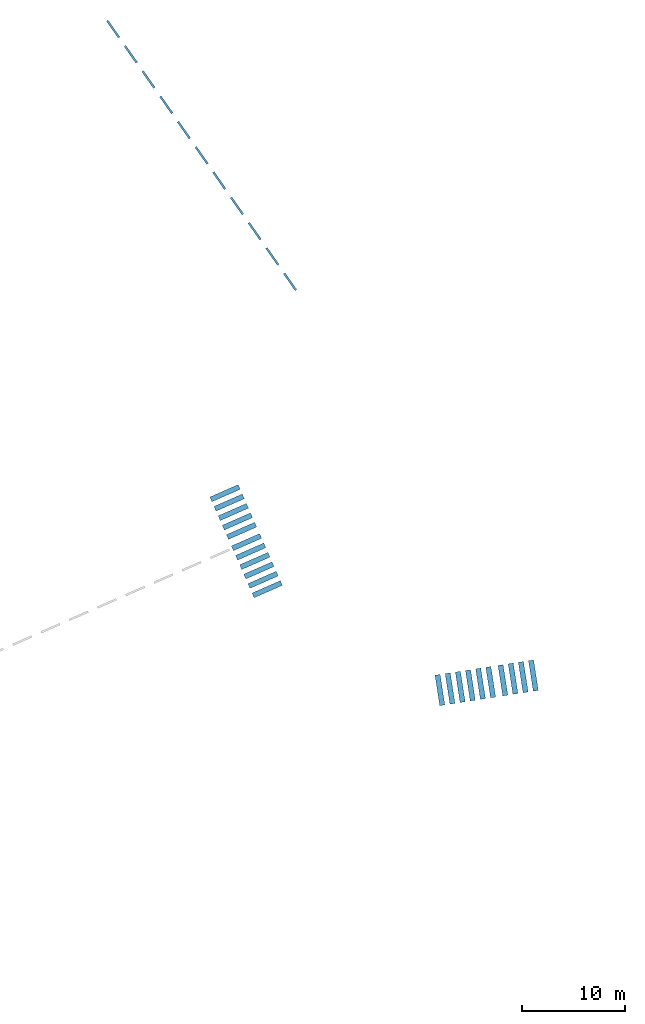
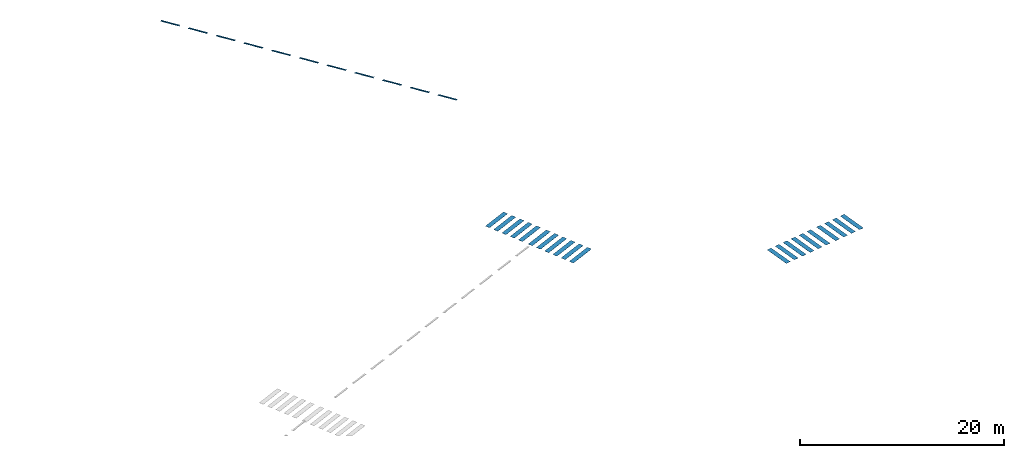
# One storey, part 83 of 112: 32 walls.
"""IFC2X3 building model written with IfcOpenShell, lengths in millimetres."""

from ifc_helpers import new_model, entity, si_unit, converted_unit, derived_unit, direction, frame, frame_2d, origin, origin_2d_with_axis, place, context, subcontext, project, spatial, rectangle, extrude, material, type_object, element, save


model = new_model("IFC2X3")

# Units and contexts
model_context = context("Model", 3, precision=0.01, world=origin(), true_north=direction((6.123031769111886e-17, 1.0)))
body_context = subcontext(model_context, "Body", "Model", "MODEL_VIEW")
ifc_project = project(units=[si_unit("LENGTHUNIT", "METRE", prefix="MILLI"), si_unit("AREAUNIT", "SQUARE_METRE"), si_unit("VOLUMEUNIT", "CUBIC_METRE"), converted_unit("PLANEANGLEUNIT", "DEGREE", entity("IfcRatioMeasure", 0.017453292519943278), si_unit("PLANEANGLEUNIT", "RADIAN"), dimensions=[0, 0, 0, 0, 0, 0, 0]), si_unit("MASSUNIT", "GRAM", prefix="KILO"), derived_unit("MASSDENSITYUNIT", [(si_unit("MASSUNIT", "GRAM", prefix="KILO"), 1), (si_unit("LENGTHUNIT", "METRE"), -3)]), derived_unit("MOMENTOFINERTIAUNIT", [(si_unit("LENGTHUNIT", "METRE"), 4)]), si_unit("TIMEUNIT", "SECOND"), si_unit("FREQUENCYUNIT", "HERTZ"), si_unit("THERMODYNAMICTEMPERATUREUNIT", "DEGREE_CELSIUS"), derived_unit("THERMALTRANSMITTANCEUNIT", [(si_unit("MASSUNIT", "GRAM", prefix="KILO"), 1), (si_unit("THERMODYNAMICTEMPERATUREUNIT", "KELVIN"), -1), (si_unit("TIMEUNIT", "SECOND"), -3)]), derived_unit("THERMALCONDUCTANCEUNIT", [(si_unit("MASSUNIT", "GRAM", prefix="KILO"), 1), (si_unit("LENGTHUNIT", "METRE"), 1), (si_unit("THERMODYNAMICTEMPERATUREUNIT", "KELVIN"), -1), (si_unit("TIMEUNIT", "SECOND"), -3)]), derived_unit("VOLUMETRICFLOWRATEUNIT", [(si_unit("LENGTHUNIT", "METRE"), 3), (si_unit("TIMEUNIT", "SECOND"), -1)]), derived_unit("MASSFLOWRATEUNIT", [(si_unit("MASSUNIT", "GRAM", prefix="KILO"), 1), (si_unit("TIMEUNIT", "SECOND"), -1)]), derived_unit("ROTATIONALFREQUENCYUNIT", [(si_unit("TIMEUNIT", "SECOND"), -1)]), si_unit("ELECTRICCURRENTUNIT", "AMPERE"), si_unit("ELECTRICVOLTAGEUNIT", "VOLT"), si_unit("POWERUNIT", "WATT"), converted_unit("FORCEUNIT", "KIP", entity("IfcRatioMeasure", 2.088543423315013e-05), si_unit("FORCEUNIT", "NEWTON"), dimensions=[1, 1, -2, 0, 0, 0, 0]), si_unit("ILLUMINANCEUNIT", "LUX"), si_unit("LUMINOUSFLUXUNIT", "LUMEN"), si_unit("LUMINOUSINTENSITYUNIT", "CANDELA"), derived_unit("USERDEFINED", [(si_unit("MASSUNIT", "GRAM", prefix="KILO"), -1), (si_unit("LENGTHUNIT", "METRE"), -2), (si_unit("TIMEUNIT", "SECOND"), 3), (si_unit("LUMINOUSFLUXUNIT", "LUMEN"), 1)]), derived_unit("USERDEFINED", [(si_unit("MASSUNIT", "GRAM", prefix="KILO"), 1), (si_unit("LENGTHUNIT", "METRE"), 3), (si_unit("TIMEUNIT", "SECOND"), -3), (si_unit("ELECTRICCURRENTUNIT", "AMPERE"), -2)]), derived_unit("USERDEFINED", [(si_unit("LENGTHUNIT", "METRE"), 2), (si_unit("TIMEUNIT", "SECOND"), -2)]), derived_unit("SOUNDPOWERUNIT", [(si_unit("MASSUNIT", "GRAM", prefix="KILO"), 1), (si_unit("LENGTHUNIT", "METRE"), 2), (si_unit("TIMEUNIT", "SECOND"), -3)]), derived_unit("SOUNDPRESSUREUNIT", [(si_unit("MASSUNIT", "GRAM", prefix="KILO"), 1), (si_unit("LENGTHUNIT", "METRE"), -1), (si_unit("TIMEUNIT", "SECOND"), -2)]), derived_unit("LINEARVELOCITYUNIT", [(si_unit("LENGTHUNIT", "METRE"), 1), (si_unit("TIMEUNIT", "SECOND"), -1)]), si_unit("PRESSUREUNIT", "PASCAL"), derived_unit("USERDEFINED", [(si_unit("LENGTHUNIT", "METRE"), -2), (si_unit("MASSUNIT", "GRAM", prefix="KILO"), 1), (si_unit("TIMEUNIT", "SECOND"), -2)]), derived_unit("LINEARFORCEUNIT", [(si_unit("MASSUNIT", "GRAM", prefix="KILO"), 1), (si_unit("LENGTHUNIT", "METRE"), 1), (si_unit("TIMEUNIT", "SECOND"), -2), (si_unit("LENGTHUNIT", "METRE"), -1)]), derived_unit("PLANARFORCEUNIT", [(si_unit("MASSUNIT", "GRAM", prefix="KILO"), 1), (si_unit("LENGTHUNIT", "METRE"), 1), (si_unit("TIMEUNIT", "SECOND"), -2), (si_unit("LENGTHUNIT", "METRE"), -2)]), derived_unit("SPECIFICHEATCAPACITYUNIT", [(si_unit("LENGTHUNIT", "METRE"), 2), (si_unit("TIMEUNIT", "SECOND"), -2), (si_unit("THERMODYNAMICTEMPERATUREUNIT", "KELVIN"), -1)]), derived_unit("VAPORPERMEABILITYUNIT", [(si_unit("TIMEUNIT", "SECOND"), 1), (si_unit("LENGTHUNIT", "METRE"), -1)]), derived_unit("DYNAMICVISCOSITYUNIT", [(si_unit("MASSUNIT", "GRAM", prefix="KILO"), 1), (si_unit("LENGTHUNIT", "METRE"), -1), (si_unit("TIMEUNIT", "SECOND"), -1)]), derived_unit("THERMALEXPANSIONCOEFFICIENTUNIT", [(si_unit("THERMODYNAMICTEMPERATUREUNIT", "KELVIN"), -1)])], contexts=[model_context])

# Site, building, storey
site_placement = place(None, frame((0.0, 0.0, 0.0), z_axis=(0.0, 0.0, 1.0), x_axis=(0.8191520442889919, 0.5735764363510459, 0.0)))
site = spatial("IfcSite", under=ifc_project, at=site_placement, Name="Default", CompositionType="ELEMENT")
building_placement = place(site_placement, origin())
building = spatial("IfcBuilding", under=site, at=building_placement, CompositionType="ELEMENT")
storey_placement = place(building_placement, frame((0.0, 0.0, -3600.0)))
storey = spatial("IfcBuildingStorey", under=building, at=storey_placement, Name="0.UG -3.60", CompositionType="ELEMENT", Elevation=-3600.0000000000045)

# Walls
ifc_material = material(Name="road_markirovka")
wall_type_1 = type_object("IfcWallType", Name="81", PredefinedType="NOTDEFINED", material=ifc_material)
wall_1_placement = place(storey_placement, frame((262009.76716339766, 404740.5110109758, 450.0), z_axis=(0.0, 0.0, 1.0), x_axis=(0.0, 1.0, 0.0)))
element("IfcWall", 1, at=wall_1_placement, inside=storey, type_object=wall_type_1, material=ifc_material, Name="81 203377:81 203377", ObjectType="81 203377:81 203377", context=body_context, shape_type="SweptSolid", body=[
    extrude(rectangle(XDim=199.99999999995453, YDim=1999.9999999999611, at=origin_2d_with_axis()), frame((1000.0, -100.0, 0.0), z_axis=(0.0, 0.0, 1.0), x_axis=(0.0, -1.0, 0.0)), (0.0, 0.0, 1.0), 9.999999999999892),
])
wall_type_2 = type_object("IfcWallType", Name="81", PredefinedType="NOTDEFINED", material=ifc_material)
wall_2_placement = place(storey_placement, frame((262009.76716339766, 407740.51101097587, 450.0), z_axis=(0.0, 0.0, 1.0), x_axis=(0.0, 1.0, 0.0)))
element("IfcWall", 2, at=wall_2_placement, inside=storey, type_object=wall_type_2, material=ifc_material, Name="81 203379:81 203379", ObjectType="81 203379:81 203379", context=body_context, shape_type="SweptSolid", body=[
    extrude(rectangle(XDim=199.99999999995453, YDim=1999.9999999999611, at=origin_2d_with_axis()), frame((1000.0, -100.0, 0.0), z_axis=(0.0, 0.0, 1.0), x_axis=(0.0, -1.0, 0.0)), (0.0, 0.0, 1.0), 9.999999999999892),
])
wall_type_3 = type_object("IfcWallType", Name="81", PredefinedType="NOTDEFINED", material=ifc_material)
wall_3_placement = place(storey_placement, frame((262009.76716339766, 410740.5110109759, 450.0), z_axis=(0.0, 0.0, 1.0), x_axis=(0.0, 1.0, 0.0)))
element("IfcWall", 3, at=wall_3_placement, inside=storey, type_object=wall_type_3, material=ifc_material, Name="81 203382:81 203382", ObjectType="81 203382:81 203382", context=body_context, shape_type="SweptSolid", body=[
    extrude(rectangle(XDim=199.99999999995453, YDim=2000.0000000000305, at=frame_2d((0.0, 3.467448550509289e-11), x_axis=(1.0, 0.0))), frame((1000.0, -100.0, 0.0), z_axis=(0.0, 0.0, 1.0), x_axis=(0.0, -1.0, 0.0)), (0.0, 0.0, 1.0), 9.999999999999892),
])
wall_type_4 = type_object("IfcWallType", Name="81", PredefinedType="NOTDEFINED", material=ifc_material)
wall_4_placement = place(storey_placement, frame((262009.76716339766, 413740.5110109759, 450.0), z_axis=(0.0, 0.0, 1.0), x_axis=(0.0, 1.0, 0.0)))
element("IfcWall", 4, at=wall_4_placement, inside=storey, type_object=wall_type_4, material=ifc_material, Name="81 203385:81 203385", ObjectType="81 203385:81 203385", context=body_context, shape_type="SweptSolid", body=[
    extrude(rectangle(XDim=199.99999999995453, YDim=2000.0000000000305, at=frame_2d((0.0, 3.467448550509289e-11), x_axis=(1.0, 0.0))), frame((1000.0, -100.0, 0.0), z_axis=(0.0, 0.0, 1.0), x_axis=(0.0, -1.0, 0.0)), (0.0, 0.0, 1.0), 9.999999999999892),
])
wall_type_5 = type_object("IfcWallType", Name="81", PredefinedType="NOTDEFINED", material=ifc_material)
wall_5_placement = place(storey_placement, frame((262009.76716339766, 419740.51101097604, 450.0), z_axis=(0.0, 0.0, 1.0), x_axis=(0.0, 1.0, 0.0)))
element("IfcWall", 5, at=wall_5_placement, inside=storey, type_object=wall_type_5, material=ifc_material, Name="81 203387:81 203387", ObjectType="81 203387:81 203387", context=body_context, shape_type="SweptSolid", body=[
    extrude(rectangle(XDim=199.99999999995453, YDim=1999.9999999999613, at=frame_2d((0.0, -6.929212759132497e-11), x_axis=(1.0, 0.0))), frame((1000.0, -100.0, 0.0), z_axis=(0.0, 0.0, 1.0), x_axis=(0.0, -1.0, 0.0)), (0.0, 0.0, 1.0), 9.999999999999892),
])
wall_type_6 = type_object("IfcWallType", Name="81", PredefinedType="NOTDEFINED", material=ifc_material)
wall_6_placement = place(storey_placement, frame((262009.76716339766, 422740.5110109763, 450.0), z_axis=(0.0, 0.0, 1.0), x_axis=(0.0, 1.0, 0.0)))
element("IfcWall", 6, at=wall_6_placement, inside=storey, type_object=wall_type_6, material=ifc_material, Name="81 203389:81 203389", ObjectType="81 203389:81 203389", context=body_context, shape_type="SweptSolid", body=[
    extrude(rectangle(XDim=199.99999999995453, YDim=1999.9999999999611, at=origin_2d_with_axis()), frame((1000.0, -100.0, 0.0), z_axis=(0.0, 0.0, 1.0), x_axis=(0.0, -1.0, 0.0)), (0.0, 0.0, 1.0), 9.999999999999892),
])
wall_type_7 = type_object("IfcWallType", Name="81", PredefinedType="NOTDEFINED", material=ifc_material)
wall_7_placement = place(storey_placement, frame((262009.76716339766, 428740.5110109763, 450.0), z_axis=(0.0, 0.0, 1.0), x_axis=(0.0, 1.0, 0.0)))
element("IfcWall", 7, at=wall_7_placement, inside=storey, type_object=wall_type_7, material=ifc_material, Name="81 203390:81 203390", ObjectType="81 203390:81 203390", context=body_context, shape_type="SweptSolid", body=[
    extrude(rectangle(XDim=199.99999999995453, YDim=2000.0000000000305, at=frame_2d((0.0, 3.467448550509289e-11), x_axis=(1.0, 0.0))), frame((1000.0, -100.0, 0.0), z_axis=(0.0, 0.0, 1.0), x_axis=(0.0, -1.0, 0.0)), (0.0, 0.0, 1.0), 9.999999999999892),
])
wall_type_8 = type_object("IfcWallType", Name="81", PredefinedType="NOTDEFINED", material=ifc_material)
wall_8_placement = place(storey_placement, frame((262009.76716339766, 416740.5110109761, 450.0), z_axis=(0.0, 0.0, 1.0), x_axis=(0.0, 1.0, 0.0)))
element("IfcWall", 8, at=wall_8_placement, inside=storey, type_object=wall_type_8, material=ifc_material, Name="81 203391:81 203391", ObjectType="81 203391:81 203391", context=body_context, shape_type="SweptSolid", body=[
    extrude(rectangle(XDim=199.99999999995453, YDim=1999.9999999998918, at=frame_2d((0.0, -3.461764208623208e-11), x_axis=(1.0, 0.0))), frame((1000.0, -100.0, 0.0), z_axis=(0.0, 0.0, 1.0), x_axis=(0.0, -1.0, 0.0)), (0.0, 0.0, 1.0), 9.999999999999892),
])
wall_type_9 = type_object("IfcWallType", Name="81", PredefinedType="NOTDEFINED", material=ifc_material)
wall_9_placement = place(storey_placement, frame((262009.76716339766, 434740.51101097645, 450.0), z_axis=(0.0, 0.0, 1.0), x_axis=(0.0, 1.0, 0.0)))
element("IfcWall", 9, at=wall_9_placement, inside=storey, type_object=wall_type_9, material=ifc_material, Name="81 203396:81 203396", ObjectType="81 203396:81 203396", context=body_context, shape_type="SweptSolid", body=[
    extrude(rectangle(XDim=199.99999999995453, YDim=1999.9999999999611, at=origin_2d_with_axis()), frame((1000.0, -100.0, 0.0), z_axis=(0.0, 0.0, 1.0), x_axis=(0.0, -1.0, 0.0)), (0.0, 0.0, 1.0), 9.999999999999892),
])
wall_type_10 = type_object("IfcWallType", Name="81", PredefinedType="NOTDEFINED", material=ifc_material)
wall_10_placement = place(storey_placement, frame((262009.76716339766, 425740.5110109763, 450.0), z_axis=(0.0, 0.0, 1.0), x_axis=(0.0, 1.0, 0.0)))
element("IfcWall", 10, at=wall_10_placement, inside=storey, type_object=wall_type_10, material=ifc_material, Name="81 203397:81 203397", ObjectType="81 203397:81 203397", context=body_context, shape_type="SweptSolid", body=[
    extrude(rectangle(XDim=199.99999999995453, YDim=1999.9999999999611, at=origin_2d_with_axis()), frame((1000.0, -100.0, 0.0), z_axis=(0.0, 0.0, 1.0), x_axis=(0.0, -1.0, 0.0)), (0.0, 0.0, 1.0), 9.999999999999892),
])
wall_type_11 = type_object("IfcWallType", Name="81", PredefinedType="NOTDEFINED", material=ifc_material)
wall_11_placement = place(storey_placement, frame((262009.76716339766, 431740.5110109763, 450.0), z_axis=(0.0, 0.0, 1.0), x_axis=(0.0, 1.0, 0.0)))
element("IfcWall", 11, at=wall_11_placement, inside=storey, type_object=wall_type_11, material=ifc_material, Name="81 203398:81 203398", ObjectType="81 203398:81 203398", context=body_context, shape_type="SweptSolid", body=[
    extrude(rectangle(XDim=199.99999999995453, YDim=2000.0000000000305, at=frame_2d((0.0, 3.467448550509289e-11), x_axis=(1.0, 0.0))), frame((1000.0, -100.0, 0.0), z_axis=(0.0, 0.0, 1.0), x_axis=(0.0, -1.0, 0.0)), (0.0, 0.0, 1.0), 9.999999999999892),
])
wall_type_12 = type_object("IfcWallType", Name="81", PredefinedType="NOTDEFINED", material=ifc_material)
wall_12_placement = place(storey_placement, frame((251281.0, 362959.6996675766, 450.0), z_axis=(0.0, 0.0, 1.0), x_axis=(0.0, 1.0, 0.0)))
element("IfcWall", 12, at=wall_12_placement, inside=storey, type_object=wall_type_12, material=ifc_material, Name="81 206968:81 206968", ObjectType="81 206968:81 206968", context=body_context, shape_type="SweptSolid", body=[
    extrude(rectangle(XDim=499.9999999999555, YDim=3000.00000000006, at=frame_2d((-2.7000623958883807e-13, -3.8767211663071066e-11), x_axis=(1.0, 0.0))), frame((1456.4441670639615, -886.0647180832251, 0.0), z_axis=(0.0, 0.0, 1.0), x_axis=(0.4411364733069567, 0.8974400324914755, 0.0)), (0.0, 0.0, 1.0), 9.999999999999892),
])
wall_type_13 = type_object("IfcWallType", Name="81", PredefinedType="NOTDEFINED", material=ifc_material)
wall_13_placement = place(storey_placement, frame((241812.49358359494, 382965.23668504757, 450.0)))
element("IfcWall", 13, at=wall_13_placement, inside=storey, type_object=wall_type_13, material=ifc_material, Name="81 207042:81 207042", ObjectType="81 207042:81 207042", context=body_context, shape_type="SweptSolid", body=[
    extrude(rectangle(XDim=499.9999999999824, YDim=3000.0000000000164, at=frame_2d((-3.737454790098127e-11, 1.0118128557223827e-11), x_axis=(1.0, 0.0))), frame((1519.9094475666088, 539.0459395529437, 0.0), z_axis=(0.0, 0.0, 1.0), x_axis=(0.19592756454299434, 0.9806183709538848, 0.0)), (0.0, 0.0, 1.0), 9.999999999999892),
])
wall_type_14 = type_object("IfcWallType", Name="81", PredefinedType="NOTDEFINED", material=ifc_material)
wall_14_placement = place(storey_placement, frame((243419.09961284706, 391006.30732686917, 450.0)))
element("IfcWall", 14, at=wall_14_placement, inside=storey, type_object=wall_type_14, material=ifc_material, Name="81 207046:81 207046", ObjectType="81 207046:81 207046", context=body_context, shape_type="SweptSolid", body=[
    extrude(rectangle(XDim=500.0000000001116, YDim=2999.9999999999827, at=origin_2d_with_axis()), frame((1519.909447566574, 539.0459395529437, 0.0), z_axis=(0.0, 0.0, 1.0), x_axis=(0.19592756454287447, 0.9806183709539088, 0.0)), (0.0, 0.0, 1.0), 9.999999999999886),
])
wall_type_15 = type_object("IfcWallType", Name="81", PredefinedType="NOTDEFINED", material=ifc_material)
wall_15_placement = place(storey_placement, frame((243615.02717739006, 391986.92569782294, 450.0)))
element("IfcWall", 15, at=wall_15_placement, inside=storey, type_object=wall_type_15, material=ifc_material, Name="81 207047:81 207047", ObjectType="81 207047:81 207047", context=body_context, shape_type="SweptSolid", body=[
    extrude(rectangle(XDim=500.0000000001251, YDim=2999.999999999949, at=frame_2d((-3.382183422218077e-12, 1.7053025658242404e-11), x_axis=(1.0, 0.0))), frame((1519.909447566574, 539.0459395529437, 0.0), z_axis=(0.0, 0.0, 1.0), x_axis=(0.19592756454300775, 0.9806183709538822, 0.0)), (0.0, 0.0, 1.0), 9.999999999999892),
])
wall_type_16 = type_object("IfcWallType", Name="81", PredefinedType="NOTDEFINED", material=ifc_material)
wall_16_placement = place(storey_placement, frame((241616.56601905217, 381984.6183140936, 450.0)))
element("IfcWall", 16, at=wall_16_placement, inside=storey, type_object=wall_type_16, material=ifc_material, Name="81 207049:81 207049", ObjectType="81 207049:81 207049", context=body_context, shape_type="SweptSolid", body=[
    extrude(rectangle(XDim=500.00000000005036, YDim=3000.0000000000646, at=frame_2d((3.396394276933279e-12, -1.7053025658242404e-11), x_axis=(1.0, 0.0))), frame((1519.909447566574, 539.0459395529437, 0.0), z_axis=(0.0, 0.0, 1.0), x_axis=(0.1959275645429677, 0.9806183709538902, 0.0)), (0.0, 0.0, 1.0), 9.999999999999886),
])
wall_type_17 = type_object("IfcWallType", Name="81", PredefinedType="NOTDEFINED", material=ifc_material)
wall_17_placement = place(storey_placement, frame((242204.3487126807, 384926.4734269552, 450.0)))
element("IfcWall", 17, at=wall_17_placement, inside=storey, type_object=wall_type_17, material=ifc_material, Name="81 207050:81 207050", ObjectType="81 207050:81 207050", context=body_context, shape_type="SweptSolid", body=[
    extrude(rectangle(XDim=499.99999999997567, YDim=2999.9999999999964, at=frame_2d((-3.736033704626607e-11, 1.0118128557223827e-11), x_axis=(1.0, 0.0))), frame((1519.909447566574, 539.0459395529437, 0.0), z_axis=(0.0, 0.0, 1.0), x_axis=(0.1959275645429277, 0.9806183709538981, 0.0)), (0.0, 0.0, 1.0), 9.999999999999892),
])
wall_type_18 = type_object("IfcWallType", Name="81", PredefinedType="NOTDEFINED", material=ifc_material)
wall_18_placement = place(storey_placement, frame((242008.42114813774, 383945.8550560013, 450.0)))
element("IfcWall", 18, at=wall_18_placement, inside=storey, type_object=wall_type_18, material=ifc_material, Name="81 207211:81 207211", ObjectType="81 207211:81 207211", context=body_context, shape_type="SweptSolid", body=[
    extrude(rectangle(XDim=500.00000000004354, YDim=3000.0000000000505, at=frame_2d((6.80699940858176e-12, -3.399236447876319e-11), x_axis=(1.0, 0.0))), frame((1519.909447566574, 539.0459395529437, 0.0), z_axis=(0.0, 0.0, 1.0), x_axis=(0.19592756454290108, 0.9806183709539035, 0.0)), (0.0, 0.0, 1.0), 9.999999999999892),
])
wall_type_19 = type_object("IfcWallType", Name="81", PredefinedType="NOTDEFINED", material=ifc_material)
wall_19_placement = place(storey_placement, frame((243223.17204830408, 390025.6889559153, 450.0)))
element("IfcWall", 19, at=wall_19_placement, inside=storey, type_object=wall_type_19, material=ifc_material, Name="81 207214:81 207214", ObjectType="81 207214:81 207214", context=body_context, shape_type="SweptSolid", body=[
    extrude(rectangle(XDim=500.00000000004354, YDim=2999.9999999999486, at=origin_2d_with_axis()), frame((1519.9094475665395, 539.0459395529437, 0.0), z_axis=(0.0, 0.0, 1.0), x_axis=(0.19592756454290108, 0.9806183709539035, 0.0)), (0.0, 0.0, 1.0), 9.999999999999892),
])
wall_type_20 = type_object("IfcWallType", Name="81", PredefinedType="NOTDEFINED", material=ifc_material)
wall_20_placement = place(storey_placement, frame((242596.20384176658, 386887.7101688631, 450.0)))
element("IfcWall", 20, at=wall_20_placement, inside=storey, type_object=wall_type_20, material=ifc_material, Name="81 207216:81 207216", ObjectType="81 207216:81 207216", context=body_context, shape_type="SweptSolid", body=[
    extrude(rectangle(XDim=500.0000000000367, YDim=2999.999999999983, at=frame_2d((-3.056754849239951e-11, -2.3987922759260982e-11), x_axis=(1.0, 0.0))), frame((1519.9094475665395, 539.0459395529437, 0.0), z_axis=(0.0, 0.0, 1.0), x_axis=(0.19592756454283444, 0.9806183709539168, 0.0)), (0.0, 0.0, 1.0), 9.99999999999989),
])
wall_type_21 = type_object("IfcWallType", Name="81", PredefinedType="NOTDEFINED", material=ifc_material)
wall_21_placement = place(storey_placement, frame((242400.27627722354, 385907.091797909, 450.0)))
element("IfcWall", 21, at=wall_21_placement, inside=storey, type_object=wall_type_21, material=ifc_material, Name="81 207218:81 207218", ObjectType="81 207218:81 207218", context=body_context, shape_type="SweptSolid", body=[
    extrude(rectangle(XDim=499.99999999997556, YDim=3000.0000000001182, at=frame_2d((-3.396394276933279e-11, -6.821210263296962e-12), x_axis=(1.0, 0.0))), frame((1519.9094475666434, 539.0459395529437, 0.0), z_axis=(0.0, 0.0, 1.0), x_axis=(0.1959275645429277, 0.9806183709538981, 0.0)), (0.0, 0.0, 1.0), 9.999999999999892),
])
wall_type_22 = type_object("IfcWallType", Name="81", PredefinedType="NOTDEFINED", material=ifc_material)
wall_22_placement = place(storey_placement, frame((242831.31691921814, 388064.4522140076, 450.0)))
element("IfcWall", 22, at=wall_22_placement, inside=storey, type_object=wall_type_22, material=ifc_material, Name="81 207221:81 207221", ObjectType="81 207221:81 207221", context=body_context, shape_type="SweptSolid", body=[
    extrude(rectangle(XDim=499.9999999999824, YDim=2999.9999999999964, at=frame_2d((-6.45457021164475e-11, -3.0468072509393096e-11), x_axis=(1.0, 0.0))), frame((1519.909447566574, 539.045939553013, 0.0), z_axis=(0.0, 0.0, 1.0), x_axis=(0.19592756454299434, 0.9806183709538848, 0.0)), (0.0, 0.0, 1.0), 9.99999999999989),
])
wall_type_23 = type_object("IfcWallType", Name="81", PredefinedType="NOTDEFINED", material=ifc_material)
wall_23_placement = place(storey_placement, frame((243027.244483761, 389045.0705849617, 450.0)))
element("IfcWall", 23, at=wall_23_placement, inside=storey, type_object=wall_type_23, material=ifc_material, Name="81 207222:81 207222", ObjectType="81 207222:81 207222", context=body_context, shape_type="SweptSolid", body=[
    extrude(rectangle(XDim=500.00000000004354, YDim=3000.0000000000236, at=frame_2d((3.737454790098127e-11, -1.0345502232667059e-11), x_axis=(1.0, 0.0))), frame((1519.909447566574, 539.0459395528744, 0.0), z_axis=(0.0, 0.0, 1.0), x_axis=(0.19592756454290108, 0.9806183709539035, 0.0)), (0.0, 0.0, 1.0), 9.999999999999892),
])
wall_type_24 = type_object("IfcWallType", Name="81", PredefinedType="NOTDEFINED", material=ifc_material)
wall_24_placement = place(storey_placement, frame((252178.43958885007, 362518.56319426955, 450.0), z_axis=(0.0, 0.0, 1.0), x_axis=(0.0, 1.0, 0.0)))
element("IfcWall", 24, at=wall_24_placement, inside=storey, type_object=wall_type_24, material=ifc_material, Name="81 207225:81 207225", ObjectType="81 207225:81 207225", context=body_context, shape_type="SweptSolid", body=[
    extrude(rectangle(XDim=499.9999999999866, YDim=3000.0000000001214, at=frame_2d((-1.5504042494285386e-11, -7.617018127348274e-12), x_axis=(1.0, 0.0))), frame((1456.4441670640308, -886.0647180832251, 0.0), z_axis=(0.0, 0.0, 1.0), x_axis=(0.4411364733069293, 0.8974400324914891, 0.0)), (0.0, 0.0, 1.0), 9.999999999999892),
])
wall_type_25 = type_object("IfcWallType", Name="81", PredefinedType="NOTDEFINED", material=ifc_material)
wall_25_placement = place(storey_placement, frame((250383.55952386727, 363400.83614088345, 450.0), z_axis=(0.0, 0.0, 1.0), x_axis=(0.0, 1.0, 0.0)))
element("IfcWall", 25, at=wall_25_placement, inside=storey, type_object=wall_type_25, material=ifc_material, Name="81 207226:81 207226", ObjectType="81 207226:81 207226", context=body_context, shape_type="SweptSolid", body=[
    extrude(rectangle(XDim=499.9999999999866, YDim=3000.000000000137, at=origin_2d_with_axis()), frame((1456.4441670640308, -886.0647180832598, 0.0), z_axis=(0.0, 0.0, 1.0), x_axis=(0.4411364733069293, 0.8974400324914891, 0.0)), (0.0, 0.0, 1.0), 9.999999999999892),
])
wall_type_26 = type_object("IfcWallType", Name="81", PredefinedType="NOTDEFINED", material=ifc_material)
wall_26_placement = place(storey_placement, frame((257742.56779029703, 359783.5170597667, 450.0), z_axis=(0.0, 0.0, 1.0), x_axis=(0.0, 1.0, 0.0)))
element("IfcWall", 26, at=wall_26_placement, inside=storey, type_object=wall_type_26, material=ifc_material, Name="81 207281:81 207281", ObjectType="81 207281:81 207281", context=body_context, shape_type="SweptSolid", body=[
    extrude(rectangle(XDim=499.9999999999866, YDim=2999.9999999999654, at=frame_2d((3.126388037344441e-13, 3.8767211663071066e-11), x_axis=(1.0, 0.0))), frame((1456.4441670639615, -886.0647180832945, 0.0), z_axis=(0.0, 0.0, 1.0), x_axis=(0.4411364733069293, 0.8974400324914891, 0.0)), (0.0, 0.0, 1.0), 9.999999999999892),
])
wall_type_27 = type_object("IfcWallType", Name="81", PredefinedType="NOTDEFINED", material=ifc_material)
wall_27_placement = place(storey_placement, frame((258640.0078227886, 359342.38058645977, 450.0), z_axis=(0.0, 0.0, 1.0), x_axis=(0.0, 1.0, 0.0)))
element("IfcWall", 27, at=wall_27_placement, inside=storey, type_object=wall_type_27, material=ifc_material, Name="81 207283:81 207283", ObjectType="81 207283:81 207283", context=body_context, shape_type="SweptSolid", body=[
    extrude(rectangle(XDim=499.999999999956, YDim=3000.000000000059, at=frame_2d((3.085176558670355e-11, -2.3419488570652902e-11), x_axis=(1.0, 0.0))), frame((1456.4441670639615, -886.0647180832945, 0.0), z_axis=(0.0, 0.0, 1.0), x_axis=(0.44113647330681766, 0.8974400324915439, 0.0)), (0.0, 0.0, 1.0), 9.999999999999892),
])
wall_type_28 = type_object("IfcWallType", Name="81", PredefinedType="NOTDEFINED", material=ifc_material)
wall_28_placement = place(storey_placement, frame((253075.87962134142, 362077.4267209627, 450.0), z_axis=(0.0, 0.0, 1.0), x_axis=(0.0, 1.0, 0.0)))
element("IfcWall", 28, at=wall_28_placement, inside=storey, type_object=wall_type_28, material=ifc_material, Name="81 207284:81 207284", ObjectType="81 207284:81 207284", context=body_context, shape_type="SweptSolid", body=[
    extrude(rectangle(XDim=499.99999999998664, YDim=2999.999999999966, at=frame_2d((1.5262457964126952e-11, -3.115019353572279e-11), x_axis=(1.0, 0.0))), frame((1456.4441670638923, -886.0647180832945, 0.0), z_axis=(0.0, 0.0, 1.0), x_axis=(0.4411364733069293, 0.8974400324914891, 0.0)), (0.0, 0.0, 1.0), 9.999999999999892),
])
wall_type_29 = type_object("IfcWallType", Name="81", PredefinedType="NOTDEFINED", material=ifc_material)
wall_29_placement = place(storey_placement, frame((256845.12775780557, 360224.65353307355, 450.0), z_axis=(0.0, 0.0, 1.0), x_axis=(0.0, 1.0, 0.0)))
element("IfcWall", 29, at=wall_29_placement, inside=storey, type_object=wall_type_29, material=ifc_material, Name="81 207292:81 207292", ObjectType="81 207292:81 207292", context=body_context, shape_type="SweptSolid", body=[
    extrude(rectangle(XDim=500.00000000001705, YDim=3000.0000000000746, at=frame_2d((-1.5290879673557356e-11, 3.115019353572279e-11), x_axis=(1.0, 0.0))), frame((1456.4441670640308, -886.0647180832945, 0.0), z_axis=(0.0, 0.0, 1.0), x_axis=(0.4411364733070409, 0.8974400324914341, 0.0)), (0.0, 0.0, 1.0), 9.999999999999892),
])
wall_type_30 = type_object("IfcWallType", Name="81", PredefinedType="NOTDEFINED", material=ifc_material)
wall_30_placement = place(storey_placement, frame((253973.31965383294, 361636.29024765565, 450.0), z_axis=(0.0, 0.0, 1.0), x_axis=(0.0, 1.0, 0.0)))
element("IfcWall", 30, at=wall_30_placement, inside=storey, type_object=wall_type_30, material=ifc_material, Name="81 207294:81 207294", ObjectType="81 207294:81 207294", context=body_context, shape_type="SweptSolid", body=[
    extrude(rectangle(XDim=500.0000000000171, YDim=3000.0000000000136, at=frame_2d((2.7000623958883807e-13, 3.8767211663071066e-11), x_axis=(1.0, 0.0))), frame((1456.4441670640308, -886.0647180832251, 0.0), z_axis=(0.0, 0.0, 1.0), x_axis=(0.4411364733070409, 0.8974400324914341, 0.0)), (0.0, 0.0, 1.0), 9.999999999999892),
])
wall_type_31 = type_object("IfcWallType", Name="81", PredefinedType="NOTDEFINED", material=ifc_material)
wall_31_placement = place(storey_placement, frame((254870.7596863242, 361195.15377434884, 450.0), z_axis=(0.0, 0.0, 1.0), x_axis=(0.0, 1.0, 0.0)))
element("IfcWall", 31, at=wall_31_placement, inside=storey, type_object=wall_type_31, material=ifc_material, Name="81 207295:81 207295", ObjectType="81 207295:81 207295", context=body_context, shape_type="SweptSolid", body=[
    extrude(rectangle(XDim=499.99999999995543, YDim=3000.000000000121, at=frame_2d((1.5290879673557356e-11, -3.115019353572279e-11), x_axis=(1.0, 0.0))), frame((1456.4441670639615, -886.0647180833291, 0.0), z_axis=(0.0, 0.0, 1.0), x_axis=(0.4411364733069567, 0.8974400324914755, 0.0)), (0.0, 0.0, 1.0), 9.999999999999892),
])
wall_type_32 = type_object("IfcWallType", Name="81", PredefinedType="NOTDEFINED", material=ifc_material)
wall_32_placement = place(storey_placement, frame((255947.68772531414, 360665.7900063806, 450.0), z_axis=(0.0, 0.0, 1.0), x_axis=(0.0, 1.0, 0.0)))
element("IfcWall", 32, at=wall_32_placement, inside=storey, type_object=wall_type_32, material=ifc_material, Name="81 207298:81 207298", ObjectType="81 207298:81 207298", context=body_context, shape_type="SweptSolid", body=[
    extrude(rectangle(XDim=500.00000000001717, YDim=2999.999999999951, at=frame_2d((1.5305090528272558e-11, -3.092281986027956e-11), x_axis=(1.0, 0.0))), frame((1456.4441670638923, -886.0647180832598, 0.0), z_axis=(0.0, 0.0, 1.0), x_axis=(0.4411364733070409, 0.8974400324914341, 0.0)), (0.0, 0.0, 1.0), 9.999999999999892),
])

save(model, "model.ifc")
